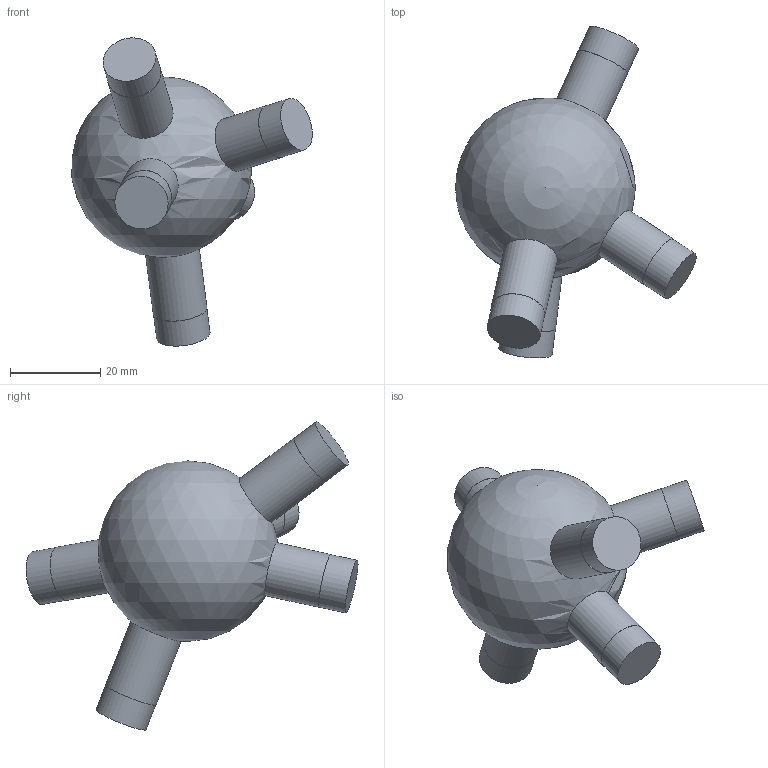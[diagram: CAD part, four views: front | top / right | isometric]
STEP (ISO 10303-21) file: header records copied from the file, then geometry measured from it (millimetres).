
FILE_DESCRIPTION(('Open CASCADE Model'),'2;1');
FILE_NAME('Open CASCADE Shape Model','2026-10-21T12:47:57',('Author'),( 'Open CASCADE'),'Open CASCADE STEP processor 7.9','Open CASCADE 7.9' ,'Unknown');
FILE_SCHEMA(('AUTOMOTIVE_DESIGN { 1 0 10303 214 1 1 1 1 }'));
Length unit declared in the file: millimetre
Products named in the file (1): Open CASCADE STEP translator 7.9 27
Bounding box: 53.27 x 73.53 x 68.26 mm (x, y, z)
Volume: 44151.3 mm3; surface area: 8657.1 mm2
Topology: 1 solids, 1 shells, 21 faces, 33 edges, 22 vertices
Faces by surface type: cylinder 10, plane 10, sphere 1
Full cylindrical faces by diameter (mm): 11.9 x5, 12 x5
Entity records: 1220 total; most frequent: CARTESIAN_POINT 495, DIRECTION 149, ORIENTED_EDGE 60, PCURVE 60, DEFINITIONAL_REPRESENTATION 60, LINE 50, VECTOR 50, AXIS2_PLACEMENT_3D 42
